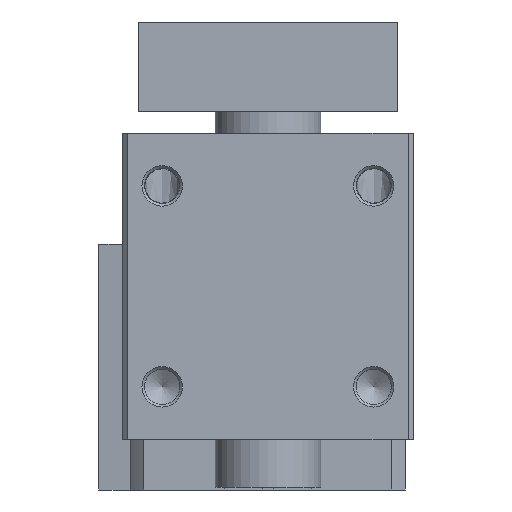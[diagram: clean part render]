
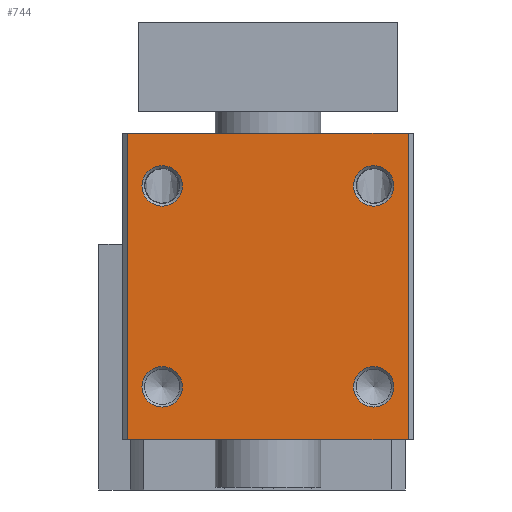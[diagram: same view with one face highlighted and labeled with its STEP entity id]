
A CAD part, left-side view. The second image highlights one B-rep face of the part: STEP entity #744.
In plain terms, the highlighted planar face has unit normal (-1, 0, 0).
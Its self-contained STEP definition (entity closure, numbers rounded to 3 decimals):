
#657=CARTESIAN_POINT('',(-61.402,21.555,61.323));
#658=VERTEX_POINT('',#657);
#659=CARTESIAN_POINT('',(-61.402,21.555,57.5));
#660=DIRECTION('',(-1.0,0.0,0.0));
#661=DIRECTION('',(0.0,0.0,-1.0));
#662=AXIS2_PLACEMENT_3D('',#659,#660,#661);
#663=CIRCLE('',#662,3.823);
#664=EDGE_CURVE('',#658,#658,#663,.T.);
#669=CARTESIAN_POINT('',(-61.402,1.555,9.5));
#670=DIRECTION('',(-1.0,0.0,0.0));
#671=DIRECTION('',(0.0,0.0,1.0));
#672=AXIS2_PLACEMENT_3D('',#669,#670,#671);
#673=PLANE('',#672);
#674=CARTESIAN_POINT('',(-61.402,28.055,9.5));
#675=VERTEX_POINT('',#674);
#676=CARTESIAN_POINT('',(-61.402,28.055,67.5));
#677=VERTEX_POINT('',#676);
#678=CARTESIAN_POINT('',(-61.402,28.055,9.5));
#679=DIRECTION('',(0.0,0.0,1.0));
#680=VECTOR('',#679,58.);
#681=LINE('',#678,#680);
#682=EDGE_CURVE('',#675,#677,#681,.T.);
#683=ORIENTED_EDGE('',*,*,#682,.F.);
#684=CARTESIAN_POINT('',(-61.402,-24.945,9.5));
#685=VERTEX_POINT('',#684);
#686=CARTESIAN_POINT('',(-61.402,28.055,9.5));
#687=DIRECTION('',(0.0,-1.0,0.0));
#688=VECTOR('',#687,53.0);
#689=LINE('',#686,#688);
#690=EDGE_CURVE('',#675,#685,#689,.T.);
#691=ORIENTED_EDGE('',*,*,#690,.T.);
#692=CARTESIAN_POINT('',(-61.402,-24.945,67.5));
#693=VERTEX_POINT('',#692);
#694=CARTESIAN_POINT('',(-61.402,-24.945,67.5));
#695=DIRECTION('',(0.0,0.0,-1.0));
#696=VECTOR('',#695,58.);
#697=LINE('',#694,#696);
#698=EDGE_CURVE('',#693,#685,#697,.T.);
#699=ORIENTED_EDGE('',*,*,#698,.F.);
#700=CARTESIAN_POINT('',(-61.402,28.055,67.5));
#701=DIRECTION('',(0.0,-1.0,0.0));
#702=VECTOR('',#701,53.0);
#703=LINE('',#700,#702);
#704=EDGE_CURVE('',#677,#693,#703,.T.);
#705=ORIENTED_EDGE('',*,*,#704,.F.);
#706=EDGE_LOOP('',(#683,#691,#699,#705));
#707=FACE_OUTER_BOUND('',#706,.T.);
#708=CARTESIAN_POINT('',(-61.402,-18.445,61.323));
#709=VERTEX_POINT('',#708);
#710=CARTESIAN_POINT('',(-61.402,-18.445,57.5));
#711=DIRECTION('',(-1.0,0.0,0.0));
#712=DIRECTION('',(0.0,0.0,-1.0));
#713=AXIS2_PLACEMENT_3D('',#710,#711,#712);
#714=CIRCLE('',#713,3.823);
#715=EDGE_CURVE('',#709,#709,#714,.T.);
#716=ORIENTED_EDGE('',*,*,#715,.F.);
#717=EDGE_LOOP('',(#716));
#718=FACE_BOUND('',#717,.T.);
#719=CARTESIAN_POINT('',(-61.402,-18.445,23.323));
#720=VERTEX_POINT('',#719);
#721=CARTESIAN_POINT('',(-61.402,-18.445,19.5));
#722=DIRECTION('',(-1.0,0.0,0.0));
#723=DIRECTION('',(0.0,0.0,-1.0));
#724=AXIS2_PLACEMENT_3D('',#721,#722,#723);
#725=CIRCLE('',#724,3.824);
#726=EDGE_CURVE('',#720,#720,#725,.T.);
#727=ORIENTED_EDGE('',*,*,#726,.F.);
#728=EDGE_LOOP('',(#727));
#729=FACE_BOUND('',#728,.T.);
#730=CARTESIAN_POINT('',(-61.402,21.555,23.323));
#731=VERTEX_POINT('',#730);
#732=CARTESIAN_POINT('',(-61.402,21.555,19.5));
#733=DIRECTION('',(-1.0,0.0,0.0));
#734=DIRECTION('',(0.0,0.0,-1.0));
#735=AXIS2_PLACEMENT_3D('',#732,#733,#734);
#736=CIRCLE('',#735,3.824);
#737=EDGE_CURVE('',#731,#731,#736,.T.);
#738=ORIENTED_EDGE('',*,*,#737,.F.);
#739=EDGE_LOOP('',(#738));
#740=FACE_BOUND('',#739,.T.);
#741=ORIENTED_EDGE('',*,*,#664,.F.);
#742=EDGE_LOOP('',(#741));
#743=FACE_BOUND('',#742,.T.);
#744=ADVANCED_FACE('',(#707,#718,#729,#740,#743),#673,.T.);
